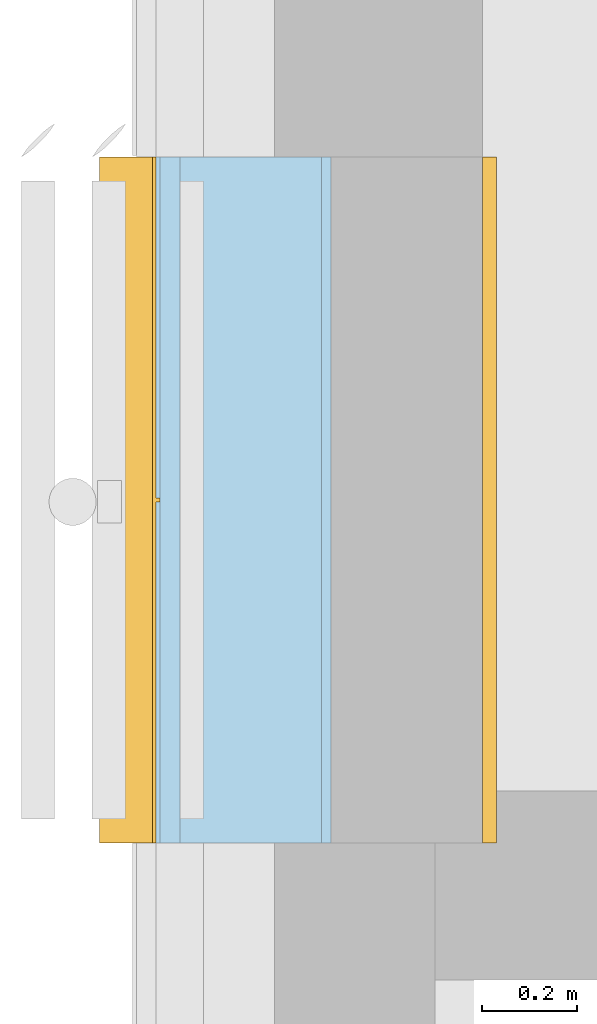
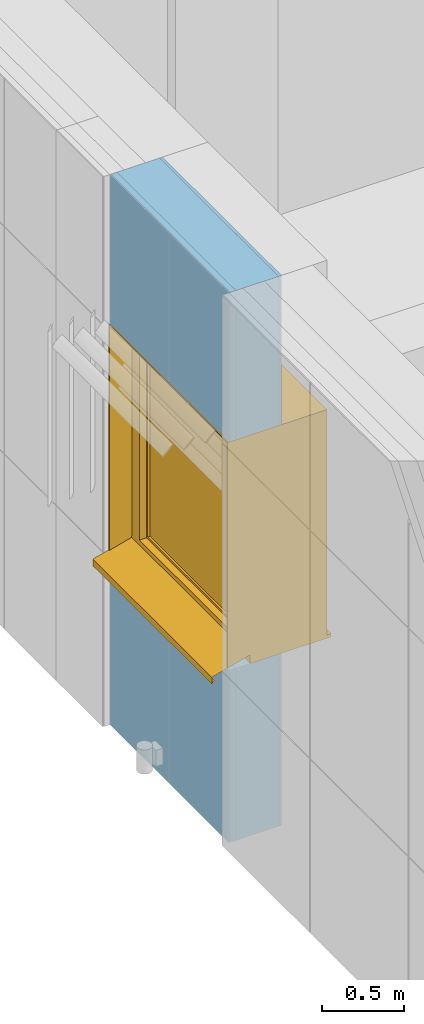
# One storey, part 129 of 418: 1 window, 2 openings, 1 element without a shape of its own, plus 4 elements that do not belong to this part.
"""IFC2X3 building model written with IfcOpenShell, lengths in millimetres."""

from ifc_helpers import new_model, entity, si_unit, converted_unit, derived_unit, money_unit, direction, frame, origin_with_axes, origin_2d_with_axis, place, context, subcontext, project, spatial, polyline, rectangle, outline, extrude, open_shell, faceted_brep, surface_model, material, type_object, element, fill, aggregate, save


model = new_model("IFC2X3")

# Units and contexts
model_context = context("Model", 3, precision=0.01, world=origin_with_axes(), true_north=direction((0.0, 1.0)))
body_context = subcontext(model_context, "Body", "Model", "MODEL_VIEW")
ifc_project = project(units=[si_unit("LENGTHUNIT", "METRE", prefix="MILLI"), si_unit("AREAUNIT", "SQUARE_METRE"), si_unit("VOLUMEUNIT", "CUBIC_METRE"), converted_unit("PLANEANGLEUNIT", "DEGREE", entity("IfcPlaneAngleMeasure", 0.0174532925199), si_unit("PLANEANGLEUNIT", "RADIAN"), dimensions=[0, 0, 0, 0, 0, 0, 0]), si_unit("SOLIDANGLEUNIT", "STERADIAN"), money_unit("EUR"), converted_unit("TIMEUNIT", "Year", entity("IfcTimeMeasure", 31556926.0), si_unit("TIMEUNIT", "SECOND"), dimensions=[0, 0, 1, 0, 0, 0, 0]), si_unit("MASSUNIT", "GRAM", prefix="KILO"), si_unit("THERMODYNAMICTEMPERATUREUNIT", "DEGREE_CELSIUS"), si_unit("LUMINOUSINTENSITYUNIT", "LUMEN"), si_unit("ENERGYUNIT", "JOULE", prefix="MEGA"), derived_unit("THERMALCONDUCTANCEUNIT", [(si_unit("POWERUNIT", "WATT"), 1), (si_unit("LENGTHUNIT", "METRE"), -1), (si_unit("THERMODYNAMICTEMPERATUREUNIT", "KELVIN"), -1)]), derived_unit("SPECIFICHEATCAPACITYUNIT", [(si_unit("ENERGYUNIT", "JOULE"), 1), (si_unit("MASSUNIT", "GRAM", prefix="KILO"), -1), (si_unit("THERMODYNAMICTEMPERATUREUNIT", "KELVIN"), -1)]), derived_unit("MASSDENSITYUNIT", [(si_unit("MASSUNIT", "GRAM", prefix="KILO"), 1), (si_unit("VOLUMEUNIT", "CUBIC_METRE"), -1)])], contexts=[model_context])

# Site, building, storey
site_placement = place(None, origin_with_axes())
site = spatial("IfcSite", under=ifc_project, at=site_placement, Name="Paldiski mnt 245/1, Tallinn, Harjumaa", CompositionType="COMPLEX")
building_placement = place(site_placement, origin_with_axes())
building = spatial("IfcBuilding", under=site, at=building_placement, Name="RKAS Hoone üldnimetus (kasutust iseloomustav) -> IFC Project Manager -> SOLIBRI", CompositionType="ELEMENT")
storey_placement = place(building_placement, origin_with_axes())
storey = spatial("IfcBuildingStorey", under=building, at=storey_placement, Name="Esimene korrus", CompositionType="ELEMENT", Elevation=0.0)

# Window
window_style = type_object("IfcWindowStyle", Name="Window 23", ConstructionType="NOTDEFINED", OperationType="SINGLE_PANEL", ParameterTakesPrecedence=False, Sizeable=False)
wall_placement = place(storey_placement, frame((-62610.0, 25579.3310636, 0.0), z_axis=(0.0, 0.0, 1.0), x_axis=(0.0, -1.0, 0.0)))
opening_1_placement = place(wall_placement, frame((725.0, 0.0, 1280.0), z_axis=(0.0, 0.0, 1.0), x_axis=(1.0, 0.0, 0.0)))
window_placement = place(opening_1_placement, frame((-725.0, 0.0, 0.0), z_axis=(0.0, 0.0, 1.0), x_axis=(1.0, 0.0, 0.0)))
window = element("IfcWindow", 1, at=window_placement, inside=storey, type_object=window_style, Name="A-06", ObjectType="WINDOW", OverallHeight=1700.0, OverallWidth=1450.0, context=body_context, shape_type="SurfaceModel", body=[
    surface_model("IfcShellBasedSurfaceModel", [(1450.0, -221.0, 75.0), (0.0, -221.0, 75.0), (0.0, -221.0, 65.0), (1450.0, -221.0, 65.0), (0.0, -490.0, -7.0), (1450.0, -490.0, -7.0), (0.0, -490.0, -57.0), (1450.0, -490.0, -57.0), (0.0, -470.0, -37.0), (1450.0, -470.0, -37.0)], [open_shell([[[0, 1, 2, 3]], [[3, 2, 4, 5]], [[5, 4, 6, 7]], [[7, 6, 8, 9]]])]),
    faceted_brep([(0.0, -135.0, 0.0), (0.0, -135.0, 25.0), (0.0, 0.0, 25.0), (0.0, 0.0, 0.0), (1450.0, -135.0, 0.0), (1450.0, -135.0, 25.0), (1450.0, 0.0, 25.0), (1450.0, 350.0, 25.0), (0.0, 350.0, 25.0), (0.0, 350.0, 0.0), (1450.0, 350.0, 0.0), (1450.0, 0.0, 0.0)], [[[0, 1, 2, 3]], [[4, 5, 1, 0]], [[1, 5, 6, 7, 8, 2]], [[3, 2, 8, 9]], [[0, 3, 9, 10, 11, 4]], [[11, 6, 5, 4]], [[10, 7, 6, 11]], [[9, 8, 7, 10]]]),
    faceted_brep([(1450.0, -135.0, 25.0), (1450.0, -135.0, 1700.0), (1424.0, -135.0, 1674.0), (1424.0, -135.0, 25.0), (1450.0, 0.0, 25.0), (1450.0, 0.0, 1700.0), (1424.0, 0.0, 1674.0), (1424.0, 0.0, 25.0)], [[[0, 1, 2, 3]], [[4, 5, 1, 0]], [[6, 2, 1, 5]], [[3, 2, 6, 7]], [[7, 4, 0, 3]], [[7, 6, 5, 4]]]),
    faceted_brep([(26.0, -135.0, 25.0), (26.0, -135.0, 1674.0), (0.0, -135.0, 1700.0), (0.0, -135.0, 25.0), (26.0, 0.0, 25.0), (26.0, 0.0, 1674.0), (0.0, 0.0, 1700.0), (0.0, 0.0, 25.0)], [[[0, 1, 2, 3]], [[4, 5, 1, 0]], [[6, 2, 1, 5]], [[3, 2, 6, 7]], [[7, 4, 0, 3]], [[7, 6, 5, 4]]]),
    faceted_brep([(1424.0, -135.0, 1674.0), (26.0, -135.0, 1674.0), (26.0, 0.0, 1674.0), (1424.0, 0.0, 1674.0), (1450.0, -135.0, 1700.0), (0.0, -135.0, 1700.0), (0.0, 0.0, 1700.0), (1450.0, 0.0, 1700.0)], [[[0, 1, 2, 3]], [[0, 4, 5, 1]], [[1, 5, 6, 2]], [[3, 2, 6, 7]], [[4, 0, 3, 7]], [[5, 4, 7, 6]]]),
    faceted_brep([(1450.0, 0.0, 25.0), (1450.0, 0.0, 1700.0), (1424.0, 0.0, 1674.0), (1424.0, 0.0, 25.0), (1450.0, 320.0, 25.0), (1450.0, 320.0, 1700.0), (1424.0, 320.0, 1674.0), (1424.0, 320.0, 25.0)], [[[0, 1, 2, 3]], [[4, 5, 1, 0]], [[5, 6, 2, 1]], [[3, 2, 6, 7]], [[7, 4, 0, 3]], [[7, 6, 5, 4]]]),
    faceted_brep([(26.0, 0.0, 25.0), (26.0, 0.0, 1674.0), (0.0, 0.0, 1700.0), (0.0, 0.0, 25.0), (26.0, 320.0, 25.0), (26.0, 320.0, 1674.0), (0.0, 320.0, 1700.0), (0.0, 320.0, 25.0)], [[[0, 1, 2, 3]], [[4, 5, 1, 0]], [[5, 6, 2, 1]], [[3, 2, 6, 7]], [[7, 4, 0, 3]], [[7, 6, 5, 4]]]),
    faceted_brep([(1450.0, 320.0, 1700.0), (1450.0, 0.0, 1700.0), (1424.0, 0.0, 1674.0), (1424.0, 320.0, 1674.0), (0.0, 320.0, 1700.0), (0.0, 0.0, 1700.0), (26.0, 0.0, 1674.0), (26.0, 320.0, 1674.0)], [[[0, 1, 2, 3]], [[4, 5, 1, 0]], [[1, 5, 6, 2]], [[3, 2, 6, 7]], [[0, 3, 7, 4]], [[7, 6, 5, 4]]]),
    faceted_brep([(1442.0, -370.0, 25.1189591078), (1442.0, -370.0, 1692.0), (1442.0, -220.0, 1692.0), (1442.0, -220.0, 75.0), (1442.0, -221.0, 75.0), (1442.0, -221.0, 65.0), (1450.0, -370.0, 25.1189591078), (1450.0, -370.0, 1700.0), (1450.0, -220.0, 1700.0), (1450.0, -220.0, 75.0), (1450.0, -221.0, 75.0), (1450.0, -221.0, 65.0)], [[[0, 1, 2, 3, 4, 5]], [[6, 7, 1, 0]], [[8, 2, 1, 7]], [[3, 2, 8, 9]], [[3, 9, 10, 4]], [[4, 10, 11, 5]], [[5, 11, 6, 0]], [[11, 10, 9, 8, 7, 6]]]),
    faceted_brep([(0.0, -370.0, 25.1189591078), (0.0, -370.0, 1700.0), (0.0, -220.0, 1700.0), (0.0, -220.0, 75.0), (0.0, -221.0, 75.0), (0.0, -221.0, 65.0), (8.0, -370.0, 25.1189591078), (8.0, -370.0, 1692.0), (7.99999999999, -220.0, 1692.0), (7.99999999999, -220.0, 75.0), (7.99999999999, -221.0, 75.0), (7.99999999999, -221.0, 65.0)], [[[0, 1, 2, 3, 4, 5]], [[6, 7, 1, 0]], [[8, 2, 1, 7]], [[3, 2, 8, 9]], [[3, 9, 10, 4]], [[4, 10, 11, 5]], [[5, 11, 6, 0]], [[11, 10, 9, 8, 7, 6]]]),
    faceted_brep([(1450.0, -220.0, 1700.0), (1450.0, -370.0, 1700.0), (1442.0, -370.0, 1692.0), (1442.0, -220.0, 1692.0), (0.0, -220.0, 1700.0), (0.0, -370.0, 1700.0), (8.0, -370.0, 1692.0), (7.99999999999, -220.0, 1692.0)], [[[0, 1, 2, 3]], [[4, 5, 1, 0]], [[1, 5, 6, 2]], [[3, 2, 6, 7]], [[0, 3, 7, 4]], [[7, 6, 5, 4]]]),
    faceted_brep([(1442.0, -378.0, 22.9776951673), (1442.0, -378.0, 1692.0), (1442.0, -370.0, 1692.0), (1442.0, -370.0, 25.1189591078), (1450.0, -378.0, 22.9776951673), (1450.0, -378.0, 1700.0), (1450.0, -370.0, 1700.0), (1450.0, -370.0, 25.1189591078)], [[[0, 1, 2, 3]], [[4, 5, 1, 0]], [[2, 1, 5, 6]], [[3, 2, 6, 7]], [[7, 4, 0, 3]], [[7, 6, 5, 4]]]),
    faceted_brep([(0.0, -378.0, 22.9776951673), (0.0, -378.0, 1700.0), (0.0, -370.0, 1700.0), (0.0, -370.0, 25.1189591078), (8.0, -378.0, 22.9776951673), (8.0, -378.0, 1692.0), (8.0, -370.0, 1692.0), (8.0, -370.0, 25.1189591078)], [[[0, 1, 2, 3]], [[4, 5, 1, 0]], [[2, 1, 5, 6]], [[3, 2, 6, 7]], [[7, 4, 0, 3]], [[7, 6, 5, 4]]]),
    faceted_brep([(1450.0, -378.0, 1700.0), (1442.0, -378.0, 1692.0), (1442.0, -370.0, 1692.0), (1450.0, -370.0, 1700.0), (0.0, -378.0, 1700.0), (8.0, -378.0, 1692.0), (8.0, -370.0, 1692.0), (0.0, -370.0, 1700.0)], [[[0, 1, 2, 3]], [[0, 4, 5, 1]], [[1, 5, 6, 2]], [[3, 2, 6, 7]], [[4, 0, 3, 7]], [[5, 4, 7, 6]]]),
    faceted_brep([(1350.0, -170.0, 1600.0), (1350.0, -220.0, 1600.0), (1450.0, -220.0, 1600.0), (1450.0, -170.0, 1600.0), (1350.0, -170.0, 100.0), (1350.0, -220.0, 100.0), (1450.0, -220.0, 100.0), (1450.0, -170.0, 100.0)], [[[0, 1, 2, 3]], [[4, 5, 1, 0]], [[2, 1, 5, 6]], [[3, 2, 6, 7]], [[4, 0, 3, 7]], [[7, 6, 5, 4]]]),
    faceted_brep([(100.0, -170.0, 100.0), (100.0, -220.0, 100.0), (0.0, -220.0, 100.0), (0.0, -170.0, 100.0), (100.0, -170.0, 1600.0), (100.0, -220.0, 1600.0), (0.0, -220.0, 1600.0), (0.0, -170.0, 1600.0)], [[[0, 1, 2, 3]], [[4, 5, 1, 0]], [[2, 1, 5, 6]], [[3, 2, 6, 7]], [[4, 0, 3, 7]], [[7, 6, 5, 4]]]),
    faceted_brep([(1350.0, -170.0, 100.0), (1350.0, -220.0, 100.0), (1450.0, -220.0, 100.0), (1450.0, -170.0, 100.0), (100.0, -170.0, 100.0), (100.0, -220.0, 100.0), (0.0, -220.0, 100.0), (0.0, -220.0, 0.0), (1450.0, -220.0, 0.0), (1450.0, -170.0, 0.0), (0.0, -170.0, 0.0), (0.0, -170.0, 100.0)], [[[0, 1, 2, 3]], [[4, 5, 1, 0]], [[2, 1, 5, 6, 7, 8]], [[3, 2, 8, 9]], [[4, 0, 3, 9, 10, 11]], [[11, 6, 5, 4]], [[10, 7, 6, 11]], [[9, 8, 7, 10]]]),
    faceted_brep([(100.0, -170.0, 1600.0), (100.0, -220.0, 1600.0), (0.0, -220.0, 1600.0), (0.0, -170.0, 1600.0), (1350.0, -170.0, 1600.0), (1350.0, -220.0, 1600.0), (1450.0, -220.0, 1600.0), (1450.0, -220.0, 1700.0), (0.0, -220.0, 1700.0), (0.0, -170.0, 1700.0), (1450.0, -170.0, 1700.0), (1450.0, -170.0, 1600.0)], [[[0, 1, 2, 3]], [[4, 5, 1, 0]], [[2, 1, 5, 6, 7, 8]], [[3, 2, 8, 9]], [[4, 0, 3, 9, 10, 11]], [[11, 6, 5, 4]], [[10, 7, 6, 11]], [[9, 8, 7, 10]]]),
    faceted_brep([(1385.0, -135.0, 100.0), (1385.0, -135.0, 1600.0), (1450.0, -135.0, 1600.0), (1450.0, -135.0, 100.0), (1385.0, -170.0, 1600.0), (1385.0, -170.0, 100.0), (1450.0, -170.0, 1600.0), (1450.0, -170.0, 100.0)], [[[0, 1, 2, 3]], [[4, 1, 0, 5]], [[1, 4, 6, 2]], [[2, 6, 7, 3]], [[5, 0, 3, 7]], [[4, 5, 7, 6]]]),
    faceted_brep([(65.0, -170.0, 1600.0), (65.0, -135.0, 1600.0), (0.0, -135.0, 1600.0), (0.0, -170.0, 1600.0), (65.0, -135.0, 100.0), (65.0, -170.0, 100.0), (0.0, -135.0, 100.0), (0.0, -170.0, 100.0)], [[[0, 1, 2, 3]], [[4, 1, 0, 5]], [[1, 4, 6, 2]], [[6, 7, 3, 2]], [[5, 0, 3, 7]], [[4, 5, 7, 6]]]),
    faceted_brep([(65.0, -170.0, 100.0), (65.0, -135.0, 100.0), (0.0, -135.0, 100.0), (0.0, -170.0, 100.0), (65.0, -135.0, 65.0), (65.0, -170.0, 65.0), (1385.0, -135.0, 65.0), (1385.0, -135.0, 100.0), (1450.0, -135.0, 100.0), (1450.0, -135.0, 0.0), (0.0, -135.0, 0.0), (0.0, -170.0, 0.0), (1450.0, -170.0, 0.0), (1450.0, -170.0, 100.0), (1385.0, -170.0, 100.0), (1385.0, -170.0, 65.0)], [[[0, 1, 2, 3]], [[4, 1, 0, 5]], [[6, 7, 8, 9, 10, 2, 1, 4]], [[10, 11, 3, 2]], [[5, 0, 3, 11, 12, 13, 14, 15]], [[6, 4, 5, 15]], [[14, 7, 6, 15]], [[7, 14, 13, 8]], [[8, 13, 12, 9]], [[9, 12, 11, 10]]]),
    faceted_brep([(1385.0, -135.0, 1600.0), (1385.0, -135.0, 1635.0), (65.0, -135.0, 1635.0), (65.0, -135.0, 1600.0), (0.0, -135.0, 1600.0), (0.0, -135.0, 1700.0), (1450.0, -135.0, 1700.0), (1450.0, -135.0, 1600.0), (1385.0, -170.0, 1600.0), (1385.0, -170.0, 1635.0), (65.0, -170.0, 1635.0), (65.0, -170.0, 1600.0), (0.0, -170.0, 1600.0), (0.0, -170.0, 1700.0), (1450.0, -170.0, 1700.0), (1450.0, -170.0, 1600.0)], [[[0, 1, 2, 3, 4, 5, 6, 7]], [[1, 0, 8, 9]], [[2, 1, 9, 10]], [[3, 2, 10, 11]], [[3, 11, 12, 4]], [[4, 12, 13, 5]], [[5, 13, 14, 6]], [[6, 14, 15, 7]], [[8, 0, 7, 15]], [[9, 8, 15, 14, 13, 12, 11, 10]]]),
    faceted_brep([(74.0, -120.0, 877.0), (75.3397459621, -120.0, 882.0), (75.3397459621, -108.0, 882.0), (74.0, -108.0, 877.0), (74.0, -120.0, 823.0), (75.3397459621, -120.0, 818.0), (79.0, -120.0, 814.339745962), (84.0, -120.0, 813.0), (96.0, -120.0, 813.0), (101.0, -120.0, 814.339745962), (104.660254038, -120.0, 818.0), (106.0, -120.0, 823.0), (106.0, -120.0, 877.0), (104.660254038, -120.0, 882.0), (101.0, -120.0, 885.660254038), (96.0, -120.0, 887.0), (84.0, -120.0, 887.0), (79.0, -120.0, 885.660254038), (79.0, -108.0, 885.660254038), (84.0, -108.0, 887.0), (96.0, -108.0, 887.0), (101.0, -108.0, 885.660254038), (104.660254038, -108.0, 882.0), (106.0, -108.0, 877.0), (106.0, -108.0, 823.0), (104.660254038, -108.0, 818.0), (101.0, -108.0, 814.339745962), (96.0, -108.0, 813.0), (84.0, -108.0, 813.0), (79.0, -108.0, 814.339745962), (75.3397459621, -108.0, 818.0), (74.0, -108.0, 823.0)], [[[0, 1, 2, 3]], [[0, 4, 5, 6, 7, 8, 9, 10, 11, 12, 13, 14, 15, 16, 17, 1]], [[1, 17, 18, 2]], [[3, 2, 18, 19, 20, 21, 22, 23, 24, 25, 26, 27, 28, 29, 30, 31]], [[4, 0, 3, 31]], [[5, 4, 31, 30]], [[6, 5, 30, 29]], [[7, 6, 29, 28]], [[8, 7, 28, 27]], [[9, 8, 27, 26]], [[10, 9, 26, 25]], [[11, 10, 25, 24]], [[12, 11, 24, 23]], [[13, 12, 23, 22]], [[14, 13, 22, 21]], [[15, 14, 21, 20]], [[16, 15, 20, 19]], [[17, 16, 19, 18]]]),
    faceted_brep([(90.0, -108.0, 863.5), (96.75, -108.0, 861.691342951), (96.75, -84.0, 861.691342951), (90.0, -84.0, 863.5), (83.25, -108.0, 861.691342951), (78.3086570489, -108.0, 856.75), (76.5, -108.0, 850.0), (78.3086570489, -108.0, 843.25), (83.25, -108.0, 838.308657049), (90.0, -108.0, 836.5), (96.75, -108.0, 838.308657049), (101.691342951, -108.0, 843.25), (103.5, -108.0, 850.0), (101.691342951, -108.0, 856.75), (101.691342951, -84.0, 856.75), (103.5, -84.0, 850.0), (101.691342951, -84.0, 843.25), (96.75, -84.0, 838.308657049), (90.0, -84.0, 836.5), (83.25, -84.0, 838.308657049), (78.3086570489, -84.0, 843.25), (76.5, -84.0, 850.0), (78.3086570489, -84.0, 856.75), (83.25, -84.0, 861.691342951)], [[[0, 1, 2, 3]], [[0, 4, 5, 6, 7, 8, 9, 10, 11, 12, 13, 1]], [[1, 13, 14, 2]], [[3, 2, 14, 15, 16, 17, 18, 19, 20, 21, 22, 23]], [[4, 0, 3, 23]], [[5, 4, 23, 22]], [[6, 5, 22, 21]], [[7, 6, 21, 20]], [[8, 7, 20, 19]], [[9, 8, 19, 18]], [[10, 9, 18, 17]], [[11, 10, 17, 16]], [[12, 11, 16, 15]], [[13, 12, 15, 14]]]),
    faceted_brep([(78.5, -84.0, 743.0), (90.0, -84.0, 740.0), (101.5, -84.0, 743.0), (103.5, -84.0, 746.0), (103.5, -84.0, 850.0), (101.691342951, -84.0, 856.75), (96.75, -84.0, 861.691342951), (90.0, -84.0, 863.5), (83.25, -84.0, 861.691342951), (78.3086570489, -84.0, 856.75), (76.5, -84.0, 850.0), (76.5, -84.0, 746.0), (78.4999999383, -76.0, 743.000000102), (89.9999999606, -76.0, 739.99999961), (101.499999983, -76.0, 743.000000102), (103.500000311, -76.0, 745.999999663), (103.500000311, -76.0, 849.999999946), (101.691343, -76.0, 856.749999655), (96.7499996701, -76.0, 861.691342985), (89.9999999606, -76.0, 863.500000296), (83.2500002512, -76.0, 861.691342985), (78.3086569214, -76.0, 856.749999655), (76.4999996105, -76.0, 849.999999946), (76.4999996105, -76.0, 745.999999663), (80.362537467, -73.0000004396, 745.614519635), (89.9999999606, -73.0000004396, 743.100398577), (99.6374624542, -73.0000004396, 745.614519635), (100.50000075, -73.0000004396, 746.908326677), (100.50000075, -73.0000004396, 849.605042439), (99.0016170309, -73.0000004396, 855.197085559), (95.1970855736, -73.0000004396, 859.001617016), (89.9999999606, -73.0000004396, 860.394172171), (84.8029143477, -73.0000004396, 859.001617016), (80.9983828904, -73.0000004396, 855.197085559), (79.4999991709, -73.0000004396, 849.605042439), (79.4999991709, -73.0000004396, 746.908326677)], [[[0, 1, 2, 3, 4, 5, 6, 7, 8, 9, 10, 11]], [[1, 0, 12, 13]], [[2, 1, 13, 14]], [[3, 2, 14, 15]], [[4, 3, 15, 16]], [[5, 4, 16, 17]], [[6, 5, 17, 18]], [[7, 6, 18, 19]], [[8, 7, 19, 20]], [[9, 8, 20, 21]], [[10, 9, 21, 22]], [[11, 10, 22, 23]], [[0, 11, 23, 12]], [[13, 12, 24, 25]], [[14, 13, 25, 26]], [[15, 14, 26, 27]], [[16, 15, 27, 28]], [[17, 16, 28, 29]], [[18, 17, 29, 30]], [[19, 18, 30, 31]], [[20, 19, 31, 32]], [[21, 20, 32, 33]], [[22, 21, 33, 34]], [[23, 22, 34, 35]], [[12, 23, 35, 24]], [[26, 25, 24, 35, 34, 33, 32, 31, 30, 29, 28, 27]]]),
    faceted_brep([(1335.0, -170.0, 1585.0), (1385.0, -170.0, 1585.0), (1385.0, -155.0, 1585.0), (1335.0, -155.0, 1585.0), (1335.0, -170.0, 115.0), (1385.0, -170.0, 115.0), (1385.0, -155.0, 115.0), (1335.0, -155.0, 115.0)], [[[0, 1, 2, 3]], [[0, 4, 5, 1]], [[1, 5, 6, 2]], [[3, 2, 6, 7]], [[4, 0, 3, 7]], [[5, 4, 7, 6]]]),
    faceted_brep([(115.0, -170.0, 115.0), (65.0, -170.0, 115.0), (65.0, -155.0, 115.0), (115.0, -155.0, 115.0), (115.0, -170.0, 1585.0), (65.0, -170.0, 1585.0), (65.0, -155.0, 1585.0), (115.0, -155.0, 1585.0)], [[[0, 1, 2, 3]], [[0, 4, 5, 1]], [[1, 5, 6, 2]], [[3, 2, 6, 7]], [[4, 0, 3, 7]], [[5, 4, 7, 6]]]),
    faceted_brep([(65.0, -170.0, 65.0), (65.0, -170.0, 115.0), (65.0, -155.0, 115.0), (65.0, -155.0, 65.0), (1385.0, -170.0, 65.0), (1385.0, -170.0, 115.0), (1335.0, -170.0, 115.0), (115.0, -170.0, 115.0), (115.0, -155.0, 115.0), (1335.0, -155.0, 115.0), (1385.0, -155.0, 115.0), (1385.0, -155.0, 65.0)], [[[0, 1, 2, 3]], [[0, 4, 5, 6, 7, 1]], [[1, 7, 8, 2]], [[3, 2, 8, 9, 10, 11]], [[4, 0, 3, 11]], [[5, 4, 11, 10]], [[6, 5, 10, 9]], [[7, 6, 9, 8]]]),
    faceted_brep([(1385.0, -170.0, 1635.0), (1385.0, -170.0, 1585.0), (1385.0, -155.0, 1585.0), (1385.0, -155.0, 1635.0), (65.0, -170.0, 1635.0), (65.0, -170.0, 1585.0), (115.0, -170.0, 1585.0), (1335.0, -170.0, 1585.0), (1335.0, -155.0, 1585.0), (115.0, -155.0, 1585.0), (65.0, -155.0, 1585.0), (65.0, -155.0, 1635.0)], [[[0, 1, 2, 3]], [[0, 4, 5, 6, 7, 1]], [[1, 7, 8, 2]], [[3, 2, 8, 9, 10, 11]], [[4, 0, 3, 11]], [[5, 4, 11, 10]], [[6, 5, 10, 9]], [[7, 6, 9, 8]]]),
    faceted_brep([(1335.0, -155.0, 1585.0), (1385.0, -155.0, 1585.0), (1385.0, -120.0, 1585.0), (1335.0, -120.0, 1585.0), (1335.0, -155.0, 115.0), (1385.0, -155.0, 115.0), (1385.0, -120.0, 115.0), (1335.0, -120.0, 115.0)], [[[0, 1, 2, 3]], [[0, 4, 5, 1]], [[1, 5, 6, 2]], [[3, 2, 6, 7]], [[4, 0, 3, 7]], [[5, 4, 7, 6]]]),
    faceted_brep([(115.0, -155.0, 115.0), (65.0, -155.0, 115.0), (65.0, -120.0, 115.0), (115.0, -120.0, 115.0), (115.0, -155.0, 1585.0), (65.0, -155.0, 1585.0), (65.0, -120.0, 1585.0), (115.0, -120.0, 1585.0)], [[[0, 1, 2, 3]], [[0, 4, 5, 1]], [[1, 5, 6, 2]], [[3, 2, 6, 7]], [[4, 0, 3, 7]], [[5, 4, 7, 6]]]),
    faceted_brep([(65.0, -155.0, 65.0), (65.0, -155.0, 115.0), (65.0, -120.0, 115.0), (65.0, -120.0, 65.0), (1385.0, -155.0, 65.0), (1385.0, -155.0, 115.0), (1335.0, -155.0, 115.0), (115.0, -155.0, 115.0), (115.0, -120.0, 115.0), (1335.0, -120.0, 115.0), (1385.0, -120.0, 115.0), (1385.0, -120.0, 65.0)], [[[0, 1, 2, 3]], [[0, 4, 5, 6, 7, 1]], [[1, 7, 8, 2]], [[3, 2, 8, 9, 10, 11]], [[4, 0, 3, 11]], [[5, 4, 11, 10]], [[6, 5, 10, 9]], [[7, 6, 9, 8]]]),
    faceted_brep([(1385.0, -155.0, 1635.0), (1385.0, -155.0, 1585.0), (1385.0, -120.0, 1585.0), (1385.0, -120.0, 1635.0), (65.0, -155.0, 1635.0), (65.0, -155.0, 1585.0), (115.0, -155.0, 1585.0), (1335.0, -155.0, 1585.0), (1335.0, -120.0, 1585.0), (115.0, -120.0, 1585.0), (65.0, -120.0, 1585.0), (65.0, -120.0, 1635.0)], [[[0, 1, 2, 3]], [[0, 4, 5, 6, 7, 1]], [[1, 7, 8, 2]], [[3, 2, 8, 9, 10, 11]], [[4, 0, 3, 11]], [[5, 4, 11, 10]], [[6, 5, 10, 9]], [[7, 6, 9, 8]]]),
    surface_model("IfcShellBasedSurfaceModel", [(1335.0, -155.0, 115.0), (1335.0, -155.0, 1585.0), (115.0, -155.0, 1585.0), (115.0, -155.0, 115.0)], [open_shell([[[0, 1, 2, 3]]])]),
    surface_model("IfcShellBasedSurfaceModel", [(1335.0, -135.0, 115.0), (115.0, -135.0, 115.0), (115.0, -135.0, 1585.0), (1335.0, -135.0, 1585.0)], [open_shell([[[0, 1, 2, 3]]])]),
])

# Wall, opening
wall_type = type_object("IfcWallType", Name="VS-05C_uued_kihid 370", PredefinedType="NOTDEFINED")
wall = element("IfcWall", 2, at=wall_placement, inside=storey, type_object=wall_type, Name="VS-05")
opening_1 = element("IfcOpeningElement", 3, at=opening_1_placement, cuts=wall, Name="A-06", context=body_context, shape_type="SweptSolid", body=[
    extrude(rectangle(XDim=1450.0, YDim=1700.0, at=origin_2d_with_axis()), frame((0.0, -220.0, 850.0), z_axis=(0.0, 1.0, 0.0), x_axis=(-1.0, 0.0, 0.0)), (0.0, 0.0, 1.0), 590.0),
    extrude(rectangle(XDim=1450.0, YDim=1700.0, at=origin_2d_with_axis()), frame((0.0, -220.0, 850.0), z_axis=(0.0, -1.0, 0.0), x_axis=(-1.0, 0.0, 0.0)), (0.0, 0.0, 1.0), 520.0),
    extrude(rectangle(XDim=1450.0, YDim=1700.0, at=origin_2d_with_axis()), frame((0.0, 0.0, 850.0), z_axis=(0.0, 1.0, 0.0), x_axis=(-1.0, 0.0, 0.0)), (0.0, 0.0, 1.0), 520.0),
    extrude(rectangle(XDim=1450.0, YDim=1708.0, at=origin_2d_with_axis()), frame((0.0, -370.0, 846.0), z_axis=(0.0, -1.0, 0.0), x_axis=(-1.0, 0.0, 0.0)), (0.0, 0.0, 1.0), 520.0),
])

fill(opening_1, window)

# Opening
opening_2_placement = place(wall_placement, frame((725.0, 0.0, 0.0), z_axis=(0.0, 0.0, 1.0), x_axis=(1.0, 0.0, 0.0)))
element("IfcOpeningElement", 4, at=opening_2_placement, cuts=wall, Name="Cembrit fassaadiplaadi vuuk", context=body_context, shape_type="SweptSolid", body=[
    extrude(outline(polyline([(-4.00000000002, 0.0), (3.99999999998, 0.0), (3.99999999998, 4090.0), (-4.00000000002, 4090.0), (-4.00000000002, 0.0)])), frame((0.0, -362.0, 0.0), z_axis=(0.0, -1.0, 0.0), x_axis=(1.0, 0.0, 0.0)), (0.0, 0.0, 1.0), 378.0),
])

# Building element part
ifc_material_1 = material(Name="Cembrit_C060")
building_element_part_1_placement = place(wall_placement, origin_with_axes())
building_element_part_1 = element("IfcBuildingElementPart", 5, at=building_element_part_1_placement, material=ifc_material_1, Name="Cembrit_C060", context=body_context, shape_type="SweptSolid", body=[
    extrude(outline(polyline([(0.0, -370.0), (1450.0, -370.0), (1450.0, -362.0), (0.0, -362.0), (0.0, -370.0)])), origin_with_axes(), (0.0, 0.0, 1.0), 4090.0),
])

ifc_material_2 = material(Name="VKR-06_Õhkvahe")
building_element_part_2_placement = place(wall_placement, origin_with_axes())
building_element_part_2 = element("IfcBuildingElementPart", 6, at=building_element_part_2_placement, material=ifc_material_2, Name="VKR-06_Õhkvahe", context=body_context, shape_type="SweptSolid", body=[
    extrude(outline(polyline([(0.0, -362.0), (1450.0, -362.0), (1450.0, -320.0), (0.0, -320.0), (0.0, -362.0)])), origin_with_axes(), (0.0, 0.0, 1.0), 4090.0),
])

ifc_material_3 = material(Name="Kingspan Kooltherm")
building_element_part_3_placement = place(wall_placement, origin_with_axes())
building_element_part_3 = element("IfcBuildingElementPart", 7, at=building_element_part_3_placement, material=ifc_material_3, Name="Kingspan Kooltherm", context=body_context, shape_type="SweptSolid", body=[
    extrude(outline(polyline([(0.0, -320.0), (1450.0, -320.0), (1450.0, -20.0), (0.0, -20.0), (0.0, -320.0)])), origin_with_axes(), (0.0, 0.0, 1.0), 4090.0),
])

ifc_material_4 = material(Name="Tasanduskrohv")
building_element_part_4_placement = place(wall_placement, origin_with_axes())
building_element_part_4 = element("IfcBuildingElementPart", 8, at=building_element_part_4_placement, material=ifc_material_4, Name="Tasanduskrohv", context=body_context, shape_type="SweptSolid", body=[
    extrude(outline(polyline([(0.0, -20.0), (1450.0, -20.0), (1450.0, 0.0), (0.0, 0.0), (0.0, -20.0)])), origin_with_axes(), (0.0, 0.0, 1.0), 4090.0),
])

aggregate(wall, [building_element_part_1, building_element_part_2, building_element_part_3, building_element_part_4])

save(model, "model.ifc")
